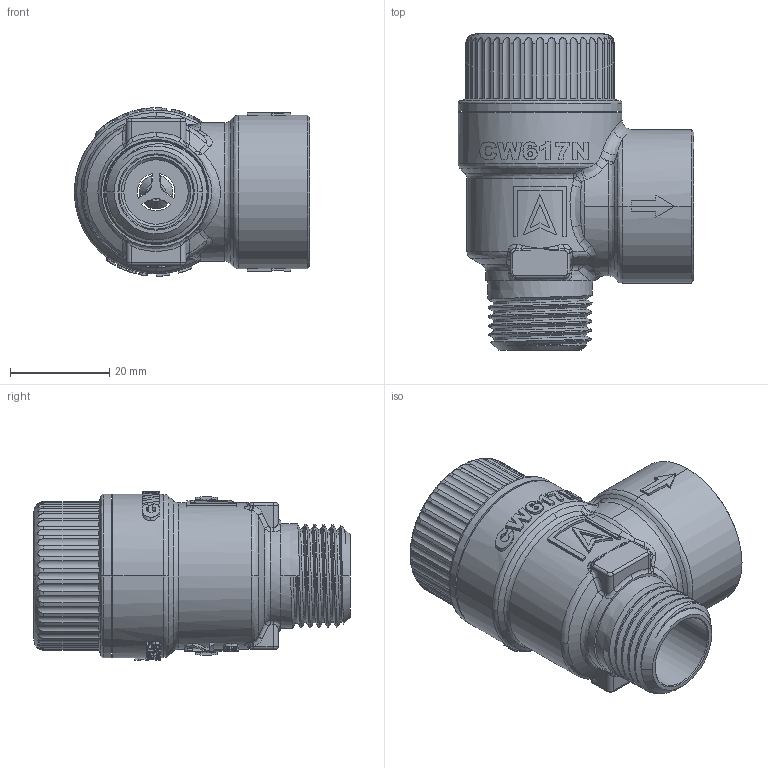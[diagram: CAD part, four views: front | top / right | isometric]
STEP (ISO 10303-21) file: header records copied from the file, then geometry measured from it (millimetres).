
FILE_DESCRIPTION (( 'STEP AP214' ), '1' );
FILE_NAME ('42523.STEP', '2022-03-11T13:10:04', ( '' ), ( '' ), 'SwSTEP 2.0', 'SolidWorks 2021', '' );
FILE_SCHEMA (( 'AUTOMOTIVE_DESIGN' ));
Length unit declared in the file: millimetre
Products named in the file (4): 30915203_ROSSA; 30005505; 90005143; 42523
Assembly tree (3 placements, depth 3):
  42523
    90005143
      30005505
      30915203_ROSSA
Bounding box: 47.5 x 63.8 x 34 mm (x, y, z)
Volume: 18406.9 mm3; surface area: 17619.6 mm2
Topology: 2 solids, 2 shells, 776 faces, 2067 edges, 1320 vertices
Faces by surface type: bspline 269, cylinder 240, plane 210, cone 57
Entity records: 51602 total; most frequent: CARTESIAN_POINT 25941, ORIENTED_EDGE 4106, DIRECTION 2766, EDGE_CURVE 2053, VERTEX_POINT 1320, AXIS2_PLACEMENT_3D 1015, EDGE_LOOP 831, UNCERTAINTY_MEASURE_WITH_UNIT 784
